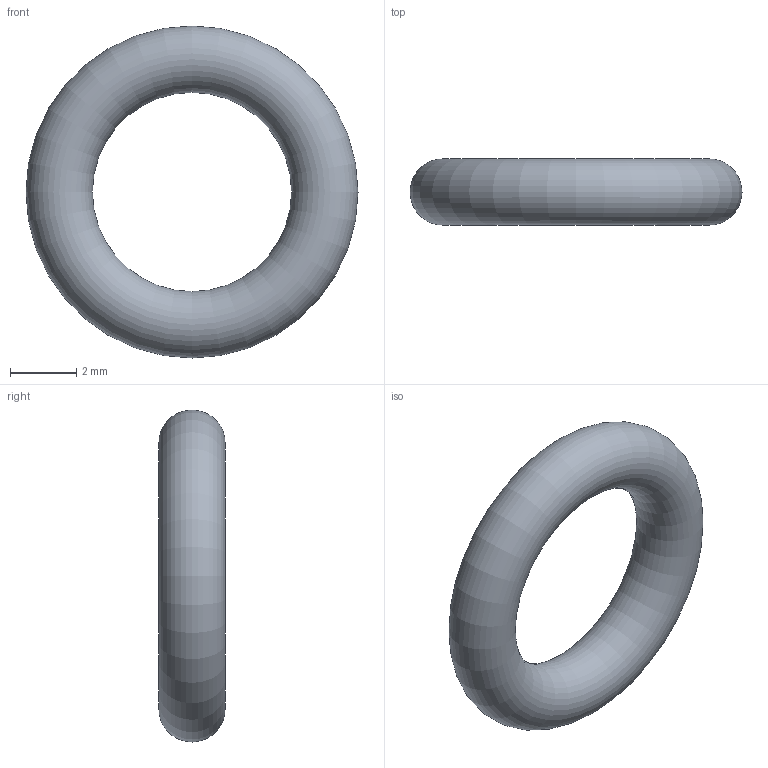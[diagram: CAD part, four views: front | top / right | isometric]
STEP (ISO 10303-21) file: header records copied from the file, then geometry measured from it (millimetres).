
FILE_DESCRIPTION( ( 'STEP AP203' ), '1' );
FILE_NAME( 'C:/Temp/Ganter_Step_05_03_2020/data/3_5/or638/O-Ring OR638-6.00-2.00-70.stp', '2020-03-12T13:44:20', ( 'License CC BY-ND 4.0' ), ( 'CADENAS' ), ' ', 'PARTsolutions', ' ' );
FILE_SCHEMA( ( 'CONFIG_CONTROL_DESIGN' ) );
Length unit declared in the file: millimetre
Products named in the file (1): _O-Ring OR638-6.00-2.00-70
Bounding box: 10 x 2 x 10 mm (x, y, z)
Volume: 79 mm3; surface area: 157.9 mm2
Topology: 1 solids, 1 shells, 1 faces, 2 edges, 1 vertices
Faces by surface type: torus 1
Entity records: 62 total; most frequent: CC_DESIGN_PERSON_AND_ORGANIZATION_ASSIGNMENT 5, PERSON_AND_ORGANIZATION_ROLE 4, DIRECTION 4, CARTESIAN_POINT 3, DATE_TIME_ROLE 2, CC_DESIGN_DATE_AND_TIME_ASSIGNMENT 2, AXIS2_PLACEMENT_3D 2, DIMENSIONAL_EXPONENTS 2
